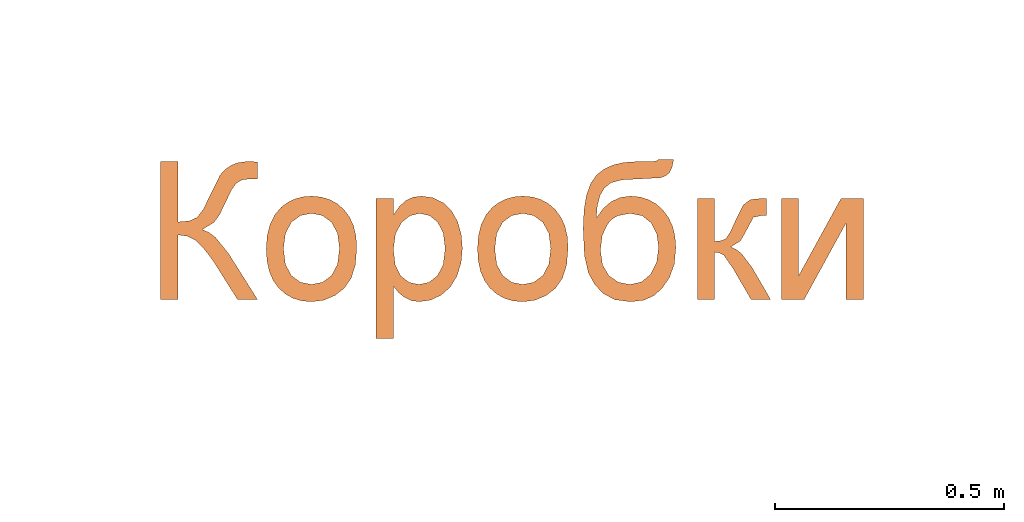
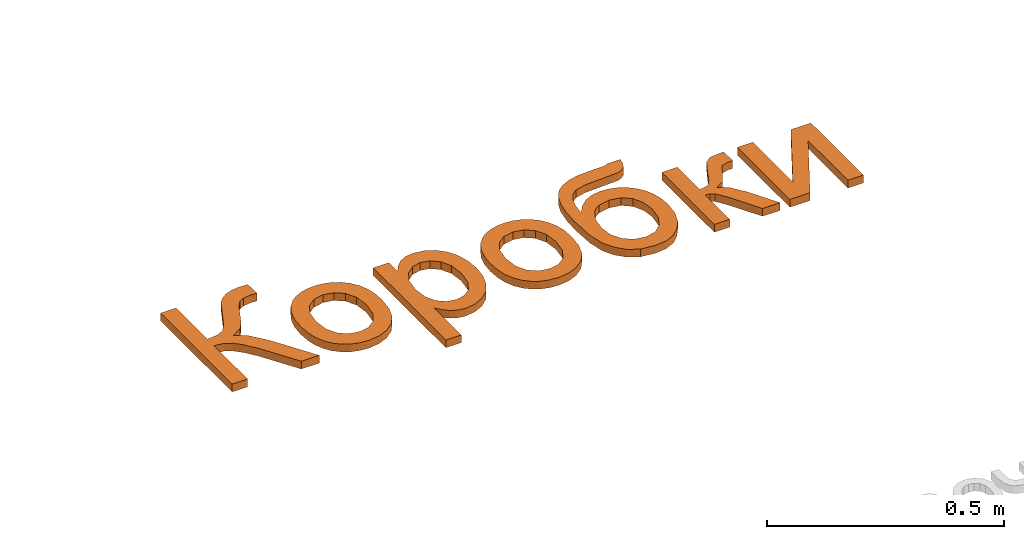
# One storey, part 29 of 87: 1 proxy.
"""IFC2X3 building model written with IfcOpenShell, lengths in millimetres."""

import ifcopenshell
import ifcopenshell.guid

model = None  # the IFC model being written
_history = None  # IfcOwnerHistory: only IFC2X3 demands one
_inside = {}  # id of a spatial element -> (the spatial element, [elements in it])
_under = {}  # id of a project, library or spatial element -> (it, [spatial elements below it])
_declared = {}  # id of a project -> (the project, [libraries it declares])
_typed = {}  # id of a type object -> (the type object, [elements of that type])
_made_of = {}  # id of a material, layer set ... -> (it, [elements and type objects made of it])


def new_model(schema):
    """Start an empty IFC model of exactly this schema.

    Asked for "IFC4X3", IfcOpenShell would pick the latest addendum, in which some entities
    have other attributes; the version numbers below select the first issue.
    IFC2X3 requires an IfcOwnerHistory on every rooted entity: one is made here for all.
    """
    global model, _history
    if schema == "IFC4X3":
        model = ifcopenshell.file(schema_version=(4, 3, 0, 0))
    else:
        model = ifcopenshell.file(schema=schema)
    _inside.clear()
    _under.clear()
    _declared.clear()
    _typed.clear()
    _made_of.clear()
    _history = None
    if model.schema == "IFC2X3":
        org = make("IfcOrganization", Name="unknown")
        user = make(
            "IfcPersonAndOrganization",
            ThePerson=make("IfcPerson", FamilyName="unknown"),
            TheOrganization=org,
        )
        app = make(
            "IfcApplication",
            ApplicationDeveloper=org,
            Version="unknown",
            ApplicationFullName="unknown",
            ApplicationIdentifier="unknown",
        )
        _history = make(
            "IfcOwnerHistory",
            OwningUser=user,
            OwningApplication=app,
            ChangeAction="ADDED",
            CreationDate=0,
        )
    return model


def make(cls, **values):
    """One entity of the class cls with the attributes given. An attribute that is None is left unset."""
    return model.create_entity(
        cls, **{name: value for name, value in values.items() if value is not None}
    )


def entity(cls, *values):
    """Any entity or typed value of the class cls, its attributes in the order of the schema. None: left unset."""
    e = model.create_entity(cls)
    for i, value in enumerate(values):
        if value is not None:
            e[i] = value
    return e


def rooted(cls, **values):
    """An entity with a GlobalId (a new one), such as an element, a storey or a relation."""
    return make(cls, GlobalId=ifcopenshell.guid.new(), OwnerHistory=_history, **values)


def si_unit(unit_type, name, prefix=None):
    """IfcSIUnit, for example si_unit("LENGTHUNIT", "METRE", prefix="MILLI")."""
    return make("IfcSIUnit", UnitType=unit_type, Prefix=prefix, Name=name)


def converted_unit(unit_type, name, factor, base, dimensions=None, offset=None):
    """IfcConversionBasedUnit, such as the inch: factor (a typed value) times the base unit."""
    return make(
        "IfcConversionBasedUnit"
        if offset is None
        else "IfcConversionBasedUnitWithOffset",
        ConversionOffset=offset,
        Dimensions=None
        if dimensions is None
        else entity("IfcDimensionalExponents", *dimensions),
        UnitType=unit_type,
        Name=name,
        ConversionFactor=make(
            "IfcMeasureWithUnit", ValueComponent=factor, UnitComponent=base
        ),
    )


def derived_unit(unit_type, elements):
    """IfcDerivedUnit: a product of units, each with its exponent."""
    return make(
        "IfcDerivedUnit",
        Elements=[
            make("IfcDerivedUnitElement", Unit=unit, Exponent=power)
            for unit, power in elements
        ],
        UnitType=unit_type,
    )


def assignment(units):
    """IfcUnitAssignment: the units of a project."""
    return None if units is None else make("IfcUnitAssignment", Units=units)


def point(xyz):
    """IfcCartesianPoint."""
    return None if xyz is None else make("IfcCartesianPoint", Coordinates=xyz)


def direction(xyz):
    """IfcDirection."""
    return None if xyz is None else make("IfcDirection", DirectionRatios=xyz)


def frame(location, z_axis=None, x_axis=None):
    """IfcAxis2Placement3D, a coordinate frame: its origin and axes. An axis left out is left unset."""
    return make(
        "IfcAxis2Placement3D",
        Location=point(location),
        Axis=direction(z_axis),
        RefDirection=direction(x_axis),
    )


def origin():
    """The frame at (0, 0, 0) with its axes left unset."""
    return frame((0.0, 0.0, 0.0))


def place(relative_to, where):
    """IfcLocalPlacement: puts the frame where relative to a parent placement (None: the world)."""
    return make(
        "IfcLocalPlacement", PlacementRelTo=relative_to, RelativePlacement=where
    )


def context(
    kind, dimensions, precision=None, world=None, true_north=None, identifier=None
):
    """IfcGeometricRepresentationContext, for example the 3D "Model" context."""
    return make(
        "IfcGeometricRepresentationContext",
        ContextIdentifier=identifier,
        ContextType=kind,
        CoordinateSpaceDimension=dimensions,
        Precision=precision,
        WorldCoordinateSystem=world,
        TrueNorth=true_north,
    )


def subcontext(parent, identifier, kind, view, scale=None):
    """IfcGeometricRepresentationSubContext, for example "Body" below "Model"."""
    return make(
        "IfcGeometricRepresentationSubContext",
        ContextIdentifier=identifier,
        ContextType=kind,
        ParentContext=parent,
        TargetScale=scale,
        TargetView=view,
    )


def project(units=None, contexts=None):
    """IfcProject with its units and contexts."""
    return rooted(
        "IfcProject",
        Name="project",
        RepresentationContexts=contexts,
        UnitsInContext=assignment(units),
    )


def spatial(cls, under=None, at=None, **own):
    """A site, building, storey or space (cls), placed at a placement, below another one or the project."""
    s = rooted(cls, ObjectPlacement=at, **own)
    if under is not None:
        _under.setdefault(under.id(), (under, []))[1].append(s)
    return s


def polyline(points):
    """IfcPolyline through the points."""
    return make("IfcPolyline", Points=[point(p) for p in points])


def outline(outer, holes=None, kind="AREA"):
    """IfcArbitraryClosedProfileDef: a profile drawn as a closed curve; with holes, ...WithVoids."""
    if holes is None:
        return make("IfcArbitraryClosedProfileDef", ProfileType=kind, OuterCurve=outer)
    return make(
        "IfcArbitraryProfileDefWithVoids",
        ProfileType=kind,
        OuterCurve=outer,
        InnerCurves=holes,
    )


def extrude(swept, where, along, depth):
    """IfcExtrudedAreaSolid: the profile swept, set in the frame where, extruded along a direction by depth."""
    return make(
        "IfcExtrudedAreaSolid",
        SweptArea=swept,
        Position=where,
        ExtrudedDirection=direction(along),
        Depth=depth,
    )


def shape(context_of_items, identifier, shape_type, items):
    """IfcShapeRepresentation: the items that make up one representation, for example the "Body"."""
    return make(
        "IfcShapeRepresentation",
        ContextOfItems=context_of_items,
        RepresentationIdentifier=identifier,
        RepresentationType=shape_type,
        Items=items,
    )


def made_of(thing, what):
    """Note that an element or type object is made of a material, layer set ...; save() writes the relation."""
    if what is not None:
        _made_of.setdefault(what.id(), (what, []))[1].append(thing)
    return thing


def element(
    cls,
    number,
    at=None,
    inside=None,
    cuts=None,
    type_object=None,
    material=None,
    context=None,
    identifier="Body",
    shape_type=None,
    held_by="IfcProductDefinitionShape",
    body=None,
    shapes=None,
    **own,
):
    """One element of the class cls, such as IfcWall. Its Tag is "e" and its number.

    at: its placement. inside: the storey or other place that contains it. cuts: it is an
    opening in that element (IfcRelVoidsElement). A single representation is given by context,
    identifier, shape_type and body (its items); several are given by shapes. held_by: the class
    of the entity that holds the representations. save() writes the other relations.
    """
    e = rooted(cls, Tag="e%d" % number, ObjectPlacement=at, **own)
    if body is not None:
        shapes = [shape(context, identifier, shape_type, body)]
    if shapes is not None:
        e.Representation = make(held_by, Representations=shapes)
    if inside is not None:
        _inside.setdefault(inside.id(), (inside, []))[1].append(e)
    if cuts is not None:
        rooted(
            "IfcRelVoidsElement", RelatingBuildingElement=cuts, RelatedOpeningElement=e
        )
    if type_object is not None:
        _typed.setdefault(type_object.id(), (type_object, []))[1].append(e)
    return made_of(e, material)


def aggregate(whole, parts):
    """IfcRelAggregates: a whole, such as a stair, and the parts it consists of."""
    return rooted("IfcRelAggregates", RelatingObject=whole, RelatedObjects=parts)


def save(model, path):
    """Write the relations noted so far, then the file.

    IfcRelAggregates (storeys below a building ...), IfcRelContainedInSpatialStructure (elements
    in a storey), IfcRelDefinesByType, IfcRelAssociatesMaterial and IfcRelDeclares: one each for
    every whole, place, type object, material and project.
    """
    for whole, parts in _under.values():
        aggregate(whole, parts)
    for where, things in _inside.values():
        rooted(
            "IfcRelContainedInSpatialStructure",
            RelatedElements=things,
            RelatingStructure=where,
        )
    for kind, things in _typed.values():
        rooted("IfcRelDefinesByType", RelatedObjects=things, RelatingType=kind)
    for what, things in _made_of.values():
        rooted("IfcRelAssociatesMaterial", RelatedObjects=things, RelatingMaterial=what)
    for by, libraries in _declared.values():
        rooted("IfcRelDeclares", RelatingContext=by, RelatedDefinitions=libraries)
    model.write(path)


model = new_model("IFC2X3")

# Units and contexts
model_context = context("Model", 3, precision=0.01, world=origin(), true_north=direction((6.12303176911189e-17, 1.0)))
body_context = subcontext(model_context, "Body", "Model", "MODEL_VIEW")
ifc_project = project(units=[si_unit("LENGTHUNIT", "METRE", prefix="MILLI"), si_unit("AREAUNIT", "SQUARE_METRE"), si_unit("VOLUMEUNIT", "CUBIC_METRE"), converted_unit("PLANEANGLEUNIT", "DEGREE", entity("IfcRatioMeasure", 0.0174532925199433), si_unit("PLANEANGLEUNIT", "RADIAN"), dimensions=[0, 0, 0, 0, 0, 0, 0]), si_unit("MASSUNIT", "GRAM", prefix="KILO"), derived_unit("MASSDENSITYUNIT", [(si_unit("MASSUNIT", "GRAM", prefix="KILO"), 1), (si_unit("LENGTHUNIT", "METRE"), -3)]), si_unit("TIMEUNIT", "SECOND"), si_unit("FREQUENCYUNIT", "HERTZ"), si_unit("THERMODYNAMICTEMPERATUREUNIT", "DEGREE_CELSIUS"), derived_unit("THERMALTRANSMITTANCEUNIT", [(si_unit("MASSUNIT", "GRAM", prefix="KILO"), 1), (si_unit("THERMODYNAMICTEMPERATUREUNIT", "KELVIN"), -1), (si_unit("TIMEUNIT", "SECOND"), -3)]), derived_unit("VOLUMETRICFLOWRATEUNIT", [(si_unit("LENGTHUNIT", "METRE"), 3), (si_unit("TIMEUNIT", "SECOND"), -1)]), si_unit("ELECTRICCURRENTUNIT", "AMPERE"), si_unit("ELECTRICVOLTAGEUNIT", "VOLT"), si_unit("POWERUNIT", "WATT"), si_unit("FORCEUNIT", "NEWTON", prefix="KILO"), si_unit("ILLUMINANCEUNIT", "LUX"), si_unit("LUMINOUSFLUXUNIT", "LUMEN"), si_unit("LUMINOUSINTENSITYUNIT", "CANDELA"), derived_unit("USERDEFINED", [(si_unit("MASSUNIT", "GRAM", prefix="KILO"), -1), (si_unit("LENGTHUNIT", "METRE"), -2), (si_unit("TIMEUNIT", "SECOND"), 3), (si_unit("LUMINOUSFLUXUNIT", "LUMEN"), 1)]), derived_unit("LINEARVELOCITYUNIT", [(si_unit("LENGTHUNIT", "METRE"), 1), (si_unit("TIMEUNIT", "SECOND"), -1)]), si_unit("PRESSUREUNIT", "PASCAL"), derived_unit("USERDEFINED", [(si_unit("LENGTHUNIT", "METRE"), -2), (si_unit("MASSUNIT", "GRAM", prefix="KILO"), 1), (si_unit("TIMEUNIT", "SECOND"), -2)])], contexts=[model_context])

# Site, building, storey
site_placement = place(None, origin())
site = spatial("IfcSite", under=ifc_project, at=site_placement, Name="Default", CompositionType="ELEMENT")
building_placement = place(site_placement, origin())
building = spatial("IfcBuilding", under=site, at=building_placement, Name="Наименование здания", CompositionType="ELEMENT")
storey_placement = place(building_placement, origin())
storey = spatial("IfcBuildingStorey", under=building, at=storey_placement, Name="Этаж 01", CompositionType="ELEMENT", Elevation=0.0)

# Proxy
proxy_placement = place(storey_placement, origin())
element("IfcBuildingElementProxy", 1, at=proxy_placement, inside=storey, Name="Текст модели:300 мм Arial", ObjectType="Текст модели:300 мм Arial", context=body_context, shape_type="SweptSolid", body=[
    extrude(outline(polyline([(-113.949345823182, -119.344729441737), (187.419584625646, -119.344729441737), (187.419584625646, -81.6736131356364), (46.1528984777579, -81.6736131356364), (49.1603337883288, -59.8306196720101), (58.1826397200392, -42.4206042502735), (75.2799554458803, -25.3968649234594), (102.512420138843, -4.71269974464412), (187.419584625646, 48.8509187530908), (187.419584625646, 92.5552997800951), (86.9142235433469, 29.2060202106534), (51.4136110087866, 0.52961868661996), (40.5886833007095, -13.9603333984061), (34.3806746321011, -28.551453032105), (18.7824780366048, -2.5421959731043), (2.08063545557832, 9.55192461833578), (-52.9729051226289, 36.01183712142), (-67.2283324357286, 46.4964739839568), (-74.0157552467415, 58.6733680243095), (-76.2782295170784, 75.9270335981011), (-75.8367711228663, 92.5552997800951), (-113.50788742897, 92.5552997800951), (-113.949345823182, 67.8336297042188), (-111.834024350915, 50.2212791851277), (-105.488059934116, 34.1724271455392), (-96.0426897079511, 20.65276382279), (-84.6291508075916, 10.6279794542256), (-9.66399724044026, -26.1142348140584), (7.92995917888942, -39.5511246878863), (15.4071607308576, -56.1701938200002), (17.8995612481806, -81.6736131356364), (-113.949345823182, -81.6736131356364), (-113.949345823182, -119.344729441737)])), frame((40250.1175392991, 5397.10994862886, 0.0), z_axis=(0.0, 0.0, 1.0), x_axis=(0.0, -1.0, 0.0)), (0.0, 0.0, 1.0), 20.0),
    extrude(outline(polyline([(-0.229377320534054, -95.3874471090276), (26.1479590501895, -95.3874471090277), (49.4793057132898, -91.7658632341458), (69.7646626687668, -84.5226954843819), (87.0040299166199, -73.6579438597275), (100.935147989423, -59.804343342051), (111.295757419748, -43.5946289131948), (118.085858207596, -25.0288005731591), (121.305450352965, -4.10685832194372), (119.659258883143, 22.6445950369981), (111.137222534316, 47.6856680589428), (96.2709912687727, 69.2676051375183), (75.5922150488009, 85.6416506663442), (47.2756049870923, 96.6589942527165), (9.49587219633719, 102.170825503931), (-15.4440446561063, 102.059101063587), (-37.7671193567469, 98.3167797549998), (-57.4733519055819, 90.9438615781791), (-74.5627423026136, 79.9403465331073), (-88.547404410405, 66.007273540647), (-98.9394520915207, 49.8456815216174), (-105.738885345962, 31.4555704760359), (-108.945704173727, 10.836940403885), (-108.636916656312, -8.0490710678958), (-105.175445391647, -25.6466417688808), (-98.5612903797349, -41.9557716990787), (-88.794451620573, -56.9764608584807), (-72.982405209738, -72.2927248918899), (-52.9508773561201, -83.799977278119), (-28.6998680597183, -91.4982180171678), (-0.229377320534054, -95.3874471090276)]), holes=[polyline([(2.13700462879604, -57.7906566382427), (-31.5841834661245, -51.2335049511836), (-54.9205080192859, -36.6132063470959), (-68.1007471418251, -16.0346845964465), (-71.3536789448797, 8.39713653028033), (-64.9677103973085, 31.9545293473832), (-49.1835960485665, 50.6439854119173), (-24.4231993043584, 62.2256502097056), (8.89161642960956, 64.4596692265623), (43.3745569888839, 57.8530781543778), (67.0871689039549, 43.2083576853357), (80.4074567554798, 22.6576120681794), (83.7134251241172, -1.66705444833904), (77.3113738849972, -25.4722462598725), (61.5266638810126, -44.1708800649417), (36.4412293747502, -55.6485016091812), (2.13700462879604, -57.7906566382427)])]), frame((40456.7104327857, 5326.29822658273, 0.0), z_axis=(0.0, 0.0, 1.0), x_axis=(0.06476590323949, -0.997900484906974, 0.0)), (0.0, 0.0, 1.0), 20.0),
    extrude(outline(polyline([(-99.8542099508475, -188.324679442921), (-62.1830936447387, -188.324679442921), (-62.1830936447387, -74.1341081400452), (-51.5421069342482, -87.6445744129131), (-38.307552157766, -98.5982608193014), (-22.8473113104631, -105.854733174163), (-5.52926638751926, -108.273557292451), (18.8889010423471, -104.659116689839), (42.1114519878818, -93.8157948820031), (62.0506561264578, -76.1942473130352), (76.618783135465, -52.2451294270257), (85.5307244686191, -23.4307721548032), (88.5013715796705, 8.78649357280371), (85.8710153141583, 39.0815758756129), (77.9799465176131, 66.8382724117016), (64.9201356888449, 90.345931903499), (46.7835533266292, 107.893903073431), (24.5082985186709, 118.819998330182), (-0.967529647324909, 122.462030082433), (-20.0973933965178, 119.859264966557), (-36.1370483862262, 112.05096961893), (-49.895835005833, 99.0371440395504), (-62.1830936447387, 80.8177882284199), (-62.1830936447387, 117.753140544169), (-99.8542099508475, 117.753140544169), (-99.8542099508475, -188.324679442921)]), holes=[polyline([(-62.1830936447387, 5.32840281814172), (-57.8328890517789, 39.4954431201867), (-44.7822752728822, 64.4470394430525), (-26.0846728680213, 79.7049451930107), (-4.79350239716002, 84.7909137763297), (16.41489462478, 80.0084478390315), (34.4227182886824, 65.6610500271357), (46.7283710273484, 41.7119321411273), (50.8302552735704, 8.1243059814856), (46.6272034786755, -26.9164540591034), (34.0180480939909, -51.3990008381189), (15.5227807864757, -65.8015809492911), (-6.33860677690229, -70.6024409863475), (-27.8505064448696, -65.9671278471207), (-45.8859212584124, -52.061188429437), (-58.1088005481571, -28.4431643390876), (-62.1830936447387, 5.32840281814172)])]), frame((40701.5159736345, 5313.2550317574, 0.0)), (0.0, 0.0, 1.0), 20.0),
    extrude(outline(polyline([(-0.229377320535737, -95.3874471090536), (26.1479590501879, -95.3874471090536), (49.4793057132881, -91.7658632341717), (69.7646626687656, -84.5226954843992), (87.0040299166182, -73.6579438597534), (100.935147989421, -59.8043433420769), (111.295757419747, -43.5946289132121), (118.085858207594, -25.0288005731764), (121.305450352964, -4.10685832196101), (119.659258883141, 22.6445950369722), (111.137222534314, 47.6856680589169), (96.2709912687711, 69.2676051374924), (75.5922150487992, 85.6416506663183), (47.2756049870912, 96.6589942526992), (9.49587219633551, 102.170825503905), (-15.4440446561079, 102.059101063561), (-37.767119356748, 98.3167797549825), (-57.4733519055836, 90.9438615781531), (-74.5627423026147, 79.94034653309), (-88.5474044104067, 66.0072735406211), (-98.9394520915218, 49.8456815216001), (-105.738885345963, 31.4555704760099), (-108.945704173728, 10.8369404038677), (-108.636916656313, -8.04907106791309), (-105.175445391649, -25.6466417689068), (-98.5612903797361, -41.955771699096), (-88.7944516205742, -56.976460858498), (-72.9824052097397, -72.2927248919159), (-52.9508773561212, -83.7999772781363), (-28.6998680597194, -91.4982180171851), (-0.229377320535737, -95.3874471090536)]), holes=[polyline([(2.13700462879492, -57.79065663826), (-31.5841834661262, -51.2335049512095), (-54.9205080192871, -36.6132063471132), (-68.1007471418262, -16.0346845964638), (-71.3536789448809, 8.39713653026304), (-64.9677103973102, 31.9545293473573), (-49.1835960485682, 50.6439854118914), (-24.4231993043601, 62.2256502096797), (8.89161642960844, 64.459669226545), (43.3745569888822, 57.8530781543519), (67.0871689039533, 43.2083576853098), (80.4074567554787, 22.6576120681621), (83.713425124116, -1.66705444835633), (77.3113738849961, -25.4722462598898), (61.5266638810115, -44.170880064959), (36.4412293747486, -55.6485016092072), (2.13700462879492, -57.79065663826)])]), frame((40918.1816075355, 5326.29822658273, 0.0), z_axis=(0.0, 0.0, 1.0), x_axis=(0.06476590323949, -0.997900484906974, 0.0)), (0.0, 0.0, 1.0), 20.0),
    extrude(outline(polyline([(-113.288756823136, 71.1787230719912), (-141.510608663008, 54.1482952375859), (-129.203599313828, 40.6605330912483), (-118.008509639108, 33.9996047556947), (-107.205239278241, 32.5805834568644), (-96.0736878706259, 34.8185424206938), (-21.4409333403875, 74.5705532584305), (2.32590846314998, 81.3073745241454), (20.3664318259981, 79.0028904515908), (37.105778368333, 69.81183573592), (53.2325508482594, 53.9993604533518), (69.4353520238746, 31.8306146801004), (45.5941107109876, 42.0210394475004), (22.8699481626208, 45.8389018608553), (1.23761199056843, 43.2904471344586), (-19.3281501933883, 34.3819204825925), (-35.9150659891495, 22.146323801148), (-48.949608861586, 7.60189855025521), (-58.4317788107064, -9.25135527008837), (-64.3615758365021, -28.4134376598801), (-66.3162260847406, -48.9739728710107), (-63.8729557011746, -70.0225851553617), (-57.0317646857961, -91.5592745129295), (-45.792653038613, -113.584040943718), (-24.2287426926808, -142.572017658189), (-0.364421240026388, -161.879097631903), (24.2730848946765, -173.211038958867), (48.1565492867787, -178.273599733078), (72.8418448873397, -175.461895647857), (99.8848446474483, -163.171042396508), (126.701387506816, -141.800326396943), (141.636002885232, -117.223100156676), (147.228456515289, -90.1947630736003), (146.018514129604, -61.4707145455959), (133.674305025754, -24.5666571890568), (105.863958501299, 27.0017063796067), (83.8410588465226, 60.0389917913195), (62.4012042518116, 85.1944773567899), (41.5443947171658, 102.468163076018), (21.270630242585, 111.860048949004), (0.612785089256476, 114.714688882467), (-21.3962664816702, 112.376636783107), (-44.7565244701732, 104.845892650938), (-69.4679888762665, 92.1224564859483), (-105.812420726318, 71.1787230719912), (-113.288756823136, 71.1787230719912)]), holes=[polyline([(-14.1473376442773, -93.1127715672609), (-25.9661341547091, -65.6237820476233), (-27.7418114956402, -38.9705651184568), (-18.9448841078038, -15.4546180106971), (0.954133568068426, 2.62256204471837), (27.335412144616, 12.1294073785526), (40.3740279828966, 11.9814229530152), (53.3112948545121, 8.56583379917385), (77.3834733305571, -6.86690530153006), (98.0536392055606, -32.9675565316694), (110.610185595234, -62.7827526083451), (110.797677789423, -90.1150687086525), (100.457096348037, -113.209056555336), (81.429421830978, -130.309267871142), (56.9314826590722, -138.593680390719), (31.1880305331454, -134.632042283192), (6.67108418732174, -119.209892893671), (-14.1473376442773, -93.1127715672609)])]), frame((41158.3054101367, 5396.29350765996, 0.0), z_axis=(0.0, 0.0, -1.0), x_axis=(-0.856187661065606, -0.516664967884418, 0.0)), (0.0, 0.0, -1.0), 20.0),
    extrude(outline(polyline([(-92.1976330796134, -85.1594264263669), (129.120175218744, -85.1594264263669), (129.120175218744, -47.4883101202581), (25.5246053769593, -47.4883101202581), (27.2628478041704, -36.5438207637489), (32.4775750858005, -27.254800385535), (61.2091589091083, -7.38917264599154), (129.120175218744, 32.121353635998), (129.120175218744, 74.9428178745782), (59.7376309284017, 34.6229512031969), (28.8539374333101, 11.2992327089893), (19.4959391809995, -0.528173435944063), (14.1938399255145, -12.4659441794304), (1.06045269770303, 8.83442334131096), (-25.758144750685, 24.0279497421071), (-50.5533912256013, 36.9773959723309), (-54.52651677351, 55.3714957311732), (-54.305787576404, 65.525038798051), (-92.1976330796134, 65.525038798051), (-92.1976330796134, 58.3145516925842), (-89.3281535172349, 30.7601902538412), (-78.2549054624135, 15.603452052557), (-44.2258209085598, -1.57663712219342), (-18.0326228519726, -13.4776196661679), (-4.78887102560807, -22.2516052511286), (0.287900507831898, -32.1660250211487), (1.9801576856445, -47.4883101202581), (-92.1976330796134, -47.4883101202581), (-92.1976330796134, -85.1594264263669)])), frame((41388.4457313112, 5338.81053922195, 0.0), z_axis=(0.0, 0.0, 1.0), x_axis=(0.0, -1.0, 0.0)), (0.0, 0.0, 1.0), 20.0),
    extrude(outline(polyline([(-110.761911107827, -89.5277623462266), (110.55589719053, -89.5277623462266), (110.55589719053, -40.2315749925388), (-57.1982926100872, 51.7389238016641), (110.55589719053, 51.7389238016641), (110.55589719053, 89.4100401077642), (-110.761911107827, 89.4100401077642), (-110.761911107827, 40.7024639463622), (58.0223482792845, -51.8566460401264), (-110.761911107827, -51.8566460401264), (-110.761911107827, -89.5277623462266)])), frame((41576.4607592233, 5320.24626119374, 0.0), z_axis=(0.0, 0.0, 1.0), x_axis=(0.0, -1.0, 0.0)), (0.0, 0.0, 1.0), 20.0),
])

save(model, "model.ifc")
